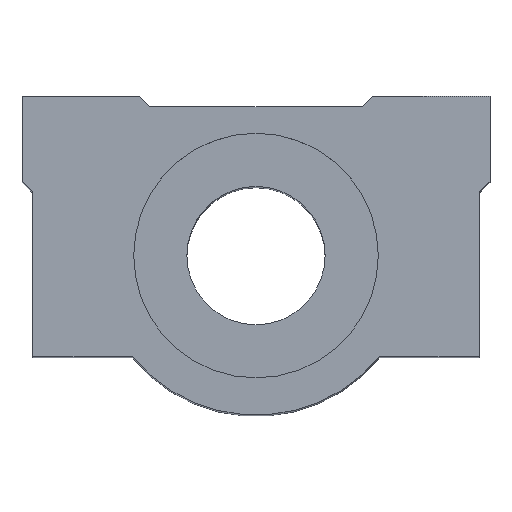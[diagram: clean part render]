
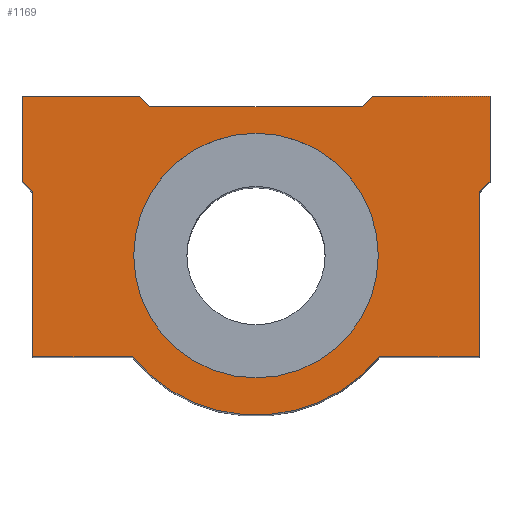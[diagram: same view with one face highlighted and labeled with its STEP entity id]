
A CAD part, top view. The second image highlights one B-rep face of the part: STEP entity #1169.
In plain terms, the highlighted planar face has unit normal (0, 0, 1).
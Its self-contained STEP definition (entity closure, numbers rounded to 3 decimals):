
#91=CARTESIAN_POINT('',(-12.209,4.198,73.0));
#92=VERTEX_POINT('',#91);
#101=CARTESIAN_POINT('',(10.791,4.198,73.0));
#102=VERTEX_POINT('',#101);
#103=CARTESIAN_POINT('',(-0.709,4.198,73.0));
#104=DIRECTION('',(0.0,0.0,-1.0));
#105=DIRECTION('',(-1.0,0.0,0.0));
#106=AXIS2_PLACEMENT_3D('',#103,#104,#105);
#107=CIRCLE('',#106,11.5);
#108=EDGE_CURVE('',#102,#92,#107,.T.);
#640=CARTESIAN_POINT('',(-0.709,4.198,73.0));
#641=DIRECTION('',(0.0,0.0,-1.0));
#642=DIRECTION('',(-1.0,0.0,0.0));
#643=AXIS2_PLACEMENT_3D('',#640,#641,#642);
#644=CIRCLE('',#643,11.5);
#645=EDGE_CURVE('',#92,#102,#644,.T.);
#780=CARTESIAN_POINT('',(21.291,11.198,73.0));
#781=VERTEX_POINT('',#780);
#782=CARTESIAN_POINT('',(20.291,10.198,73.0));
#783=VERTEX_POINT('',#782);
#784=CARTESIAN_POINT('',(21.291,11.198,73.0));
#785=DIRECTION('',(-0.707,-0.707,0.0));
#786=VECTOR('',#785,1.414);
#787=LINE('',#784,#786);
#788=EDGE_CURVE('',#781,#783,#787,.T.);
#811=CARTESIAN_POINT('',(20.291,-5.302,73.0));
#812=VERTEX_POINT('',#811);
#813=CARTESIAN_POINT('',(20.291,10.198,73.0));
#814=DIRECTION('',(0.0,-1.0,0.0));
#815=VECTOR('',#814,15.5);
#816=LINE('',#813,#815);
#817=EDGE_CURVE('',#783,#812,#816,.T.);
#835=CARTESIAN_POINT('',(10.899,-5.302,73.0));
#836=VERTEX_POINT('',#835);
#837=CARTESIAN_POINT('',(20.291,-5.302,73.0));
#838=DIRECTION('',(-1.0,0.0,0.0));
#839=VECTOR('',#838,9.392);
#840=LINE('',#837,#839);
#841=EDGE_CURVE('',#812,#836,#840,.T.);
#867=CARTESIAN_POINT('',(-12.317,-5.302,73.0));
#868=VERTEX_POINT('',#867);
#869=CARTESIAN_POINT('',(-0.709,4.198,73.0));
#870=DIRECTION('',(0.0,0.0,-1.));
#871=DIRECTION('',(0.774,0.633,0.0));
#872=AXIS2_PLACEMENT_3D('',#869,#870,#871);
#873=CIRCLE('',#872,15.0);
#874=EDGE_CURVE('',#836,#868,#873,.T.);
#892=CARTESIAN_POINT('',(-21.709,-5.302,73.0));
#893=VERTEX_POINT('',#892);
#894=CARTESIAN_POINT('',(-12.317,-5.302,73.0));
#895=DIRECTION('',(-1.0,0.0,0.0));
#896=VECTOR('',#895,9.392);
#897=LINE('',#894,#896);
#898=EDGE_CURVE('',#868,#893,#897,.T.);
#924=CARTESIAN_POINT('',(-21.709,10.198,73.0));
#925=VERTEX_POINT('',#924);
#926=CARTESIAN_POINT('',(-21.709,-5.302,73.0));
#927=DIRECTION('',(0.0,1.0,0.0));
#928=VECTOR('',#927,15.5);
#929=LINE('',#926,#928);
#930=EDGE_CURVE('',#893,#925,#929,.T.);
#948=CARTESIAN_POINT('',(-22.709,11.198,73.0));
#949=VERTEX_POINT('',#948);
#950=CARTESIAN_POINT('',(-21.709,10.198,73.0));
#951=DIRECTION('',(-0.707,0.707,0.0));
#952=VECTOR('',#951,1.414);
#953=LINE('',#950,#952);
#954=EDGE_CURVE('',#925,#949,#953,.T.);
#972=CARTESIAN_POINT('',(-22.709,19.198,73.0));
#973=VERTEX_POINT('',#972);
#974=CARTESIAN_POINT('',(-22.709,11.198,73.0));
#975=DIRECTION('',(0.0,1.0,0.0));
#976=VECTOR('',#975,8.);
#977=LINE('',#974,#976);
#978=EDGE_CURVE('',#949,#973,#977,.T.);
#996=CARTESIAN_POINT('',(-11.709,19.198,73.0));
#997=VERTEX_POINT('',#996);
#998=CARTESIAN_POINT('',(-22.709,19.198,73.0));
#999=DIRECTION('',(1.0,0.0,0.0));
#1000=VECTOR('',#999,11.);
#1001=LINE('',#998,#1000);
#1002=EDGE_CURVE('',#973,#997,#1001,.T.);
#1028=CARTESIAN_POINT('',(-10.709,18.198,73.0));
#1029=VERTEX_POINT('',#1028);
#1030=CARTESIAN_POINT('',(-11.709,19.198,73.0));
#1031=DIRECTION('',(0.707,-0.707,0.0));
#1032=VECTOR('',#1031,1.414);
#1033=LINE('',#1030,#1032);
#1034=EDGE_CURVE('',#997,#1029,#1033,.T.);
#1052=CARTESIAN_POINT('',(9.291,18.198,73.0));
#1053=VERTEX_POINT('',#1052);
#1054=CARTESIAN_POINT('',(-10.709,18.198,73.0));
#1055=DIRECTION('',(1.0,0.0,0.0));
#1056=VECTOR('',#1055,20.0);
#1057=LINE('',#1054,#1056);
#1058=EDGE_CURVE('',#1029,#1053,#1057,.T.);
#1076=CARTESIAN_POINT('',(10.291,19.198,73.0));
#1077=VERTEX_POINT('',#1076);
#1078=CARTESIAN_POINT('',(9.291,18.198,73.0));
#1079=DIRECTION('',(0.707,0.707,0.0));
#1080=VECTOR('',#1079,1.414);
#1081=LINE('',#1078,#1080);
#1082=EDGE_CURVE('',#1053,#1077,#1081,.T.);
#1100=CARTESIAN_POINT('',(21.291,19.198,73.0));
#1101=VERTEX_POINT('',#1100);
#1102=CARTESIAN_POINT('',(10.291,19.198,73.0));
#1103=DIRECTION('',(1.0,0.0,0.0));
#1104=VECTOR('',#1103,11.);
#1105=LINE('',#1102,#1104);
#1106=EDGE_CURVE('',#1077,#1101,#1105,.T.);
#1132=CARTESIAN_POINT('',(21.291,19.198,73.0));
#1133=DIRECTION('',(0.0,-1.0,0.0));
#1134=VECTOR('',#1133,8.);
#1135=LINE('',#1132,#1134);
#1136=EDGE_CURVE('',#1101,#781,#1135,.T.);
#1144=CARTESIAN_POINT('',(-0.709,6.156,73.0));
#1145=DIRECTION('',(0.0,0.0,1.0));
#1146=DIRECTION('',(1.0,0.0,0.0));
#1147=AXIS2_PLACEMENT_3D('',#1144,#1145,#1146);
#1148=PLANE('',#1147);
#1149=ORIENTED_EDGE('',*,*,#788,.F.);
#1150=ORIENTED_EDGE('',*,*,#1136,.F.);
#1151=ORIENTED_EDGE('',*,*,#1106,.F.);
#1152=ORIENTED_EDGE('',*,*,#1082,.F.);
#1153=ORIENTED_EDGE('',*,*,#1058,.F.);
#1154=ORIENTED_EDGE('',*,*,#1034,.F.);
#1155=ORIENTED_EDGE('',*,*,#1002,.F.);
#1156=ORIENTED_EDGE('',*,*,#978,.F.);
#1157=ORIENTED_EDGE('',*,*,#954,.F.);
#1158=ORIENTED_EDGE('',*,*,#930,.F.);
#1159=ORIENTED_EDGE('',*,*,#898,.F.);
#1160=ORIENTED_EDGE('',*,*,#874,.F.);
#1161=ORIENTED_EDGE('',*,*,#841,.F.);
#1162=ORIENTED_EDGE('',*,*,#817,.F.);
#1163=EDGE_LOOP('',(#1149,#1150,#1151,#1152,#1153,#1154,#1155,#1156,#1157,#1158,#1159,#1160,#1161,#1162));
#1164=FACE_OUTER_BOUND('',#1163,.T.);
#1165=ORIENTED_EDGE('',*,*,#108,.T.);
#1166=ORIENTED_EDGE('',*,*,#645,.T.);
#1167=EDGE_LOOP('',(#1165,#1166));
#1168=FACE_BOUND('',#1167,.T.);
#1169=ADVANCED_FACE('',(#1164,#1168),#1148,.T.);
